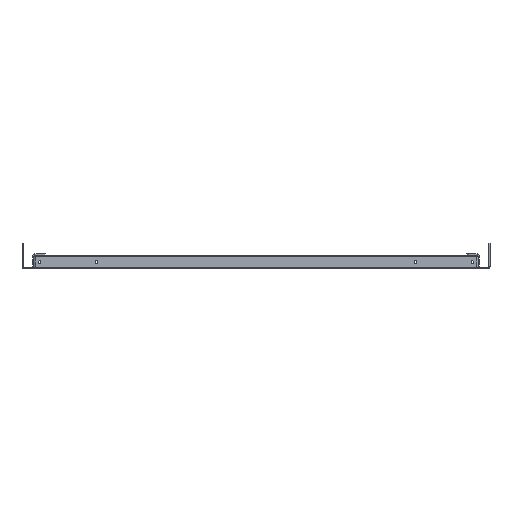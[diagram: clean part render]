
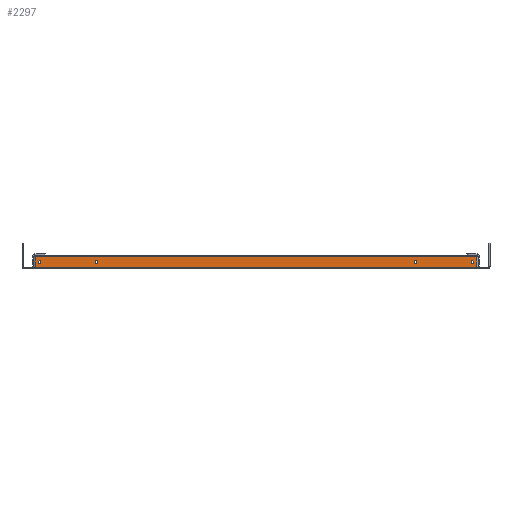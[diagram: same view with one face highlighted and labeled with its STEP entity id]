
A CAD part, front view. The second image highlights one B-rep face of the part: STEP entity #2297.
In plain terms, the highlighted planar face has unit normal (0, -1, 0).
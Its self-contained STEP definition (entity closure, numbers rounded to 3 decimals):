
#770 = FACE_OUTER_BOUND ( 'NONE', #5641, .T. ) ;
#771 = FACE_BOUND ( 'NONE', #5640, .T. ) ;
#773 = FACE_BOUND ( 'NONE', #5639, .T. ) ;
#774 = FACE_BOUND ( 'NONE', #5638, .T. ) ;
#776 = AXIS2_PLACEMENT_3D ( 'NONE', #8322, #8323, #8324 ) ;
#779 = FACE_BOUND ( 'NONE', #5637, .T. ) ;
#1204 = AXIS2_PLACEMENT_3D ( 'NONE', #7301, #7302, #7303 ) ;
#1219 = VECTOR ( 'NONE', #7259, 1000. ) ;
#1224 = VECTOR ( 'NONE', #7241, 1000. ) ;
#1226 = AXIS2_PLACEMENT_3D ( 'NONE', #7238, #7242, #7243 ) ;
#1241 = VECTOR ( 'NONE', #7190, 1000. ) ;
#1250 = AXIS2_PLACEMENT_3D ( 'NONE', #7163, #7164, #7165 ) ;
#1306 = AXIS2_PLACEMENT_3D ( 'NONE', #7026, #7027, #7028 ) ;
#1341 = AXIS2_PLACEMENT_3D ( 'NONE', #6930, #6931, #6932 ) ;
#1366 = VECTOR ( 'NONE', #6711, 1000. ) ;
#1564 = CIRCLE ( 'NONE', #12384, 1.8 ) ;
#1569 = CIRCLE ( 'NONE', #12374, 1.8 ) ;
#1634 = CIRCLE ( 'NONE', #12366, 1.8 ) ;
#1698 = CIRCLE ( 'NONE', #1226, 1.8 ) ;
#1706 = CIRCLE ( 'NONE', #1306, 1.8 ) ;
#1720 = CIRCLE ( 'NONE', #1341, 1.8 ) ;
#1772 = CIRCLE ( 'NONE', #1204, 1.8 ) ;
#1785 = CIRCLE ( 'NONE', #1250, 1.8 ) ;
#1815 = EDGE_CURVE ( 'NONE', #5230, #5231, #6709, .T. ) ;
#1893 = EDGE_CURVE ( 'NONE', #5272, #5277, #1720, .T. ) ;
#1925 = EDGE_CURVE ( 'NONE', #5262, #5267, #1706, .T. ) ;
#1958 = EDGE_CURVE ( 'NONE', #5177, #5176, #1785, .T. ) ;
#1966 = EDGE_CURVE ( 'NONE', #5231, #5234, #7188, .T. ) ;
#1983 = EDGE_CURVE ( 'NONE', #5234, #5229, #7239, .T. ) ;
#1984 = EDGE_CURVE ( 'NONE', #5140, #5141, #1698, .T. ) ;
#1989 = EDGE_CURVE ( 'NONE', #5229, #5230, #7257, .T. ) ;
#2004 = EDGE_CURVE ( 'NONE', #5141, #5140, #1772, .T. ) ;
#2297 = ADVANCED_FACE ( 'NONE', ( #779, #774, #773, #771, #770 ), #8315, .F. ) ;
#2352 = DIRECTION ( 'NONE',  ( 0., 1., 0. ) ) ;
#2353 = DIRECTION ( 'NONE',  ( -1., 0., 0. ) ) ;
#2369 = CARTESIAN_POINT ( 'NONE',  ( 316.5, -175., 10. ) ) ;
#2376 = DIRECTION ( 'NONE',  ( 0., 1., 0. ) ) ;
#2377 = DIRECTION ( 'NONE',  ( -1., 0., 0. ) ) ;
#5140 = VERTEX_POINT ( 'NONE', #8825 ) ;
#5141 = VERTEX_POINT ( 'NONE', #8826 ) ;
#5176 = VERTEX_POINT ( 'NONE', #8861 ) ;
#5177 = VERTEX_POINT ( 'NONE', #8862 ) ;
#5229 = VERTEX_POINT ( 'NONE', #8914 ) ;
#5230 = VERTEX_POINT ( 'NONE', #8915 ) ;
#5231 = VERTEX_POINT ( 'NONE', #8916 ) ;
#5234 = VERTEX_POINT ( 'NONE', #8919 ) ;
#5262 = VERTEX_POINT ( 'NONE', #8947 ) ;
#5267 = VERTEX_POINT ( 'NONE', #8952 ) ;
#5272 = VERTEX_POINT ( 'NONE', #8957 ) ;
#5277 = VERTEX_POINT ( 'NONE', #8962 ) ;
#5637 = EDGE_LOOP ( 'NONE', ( #6423, #6407 ) ) ;
#5638 = EDGE_LOOP ( 'NONE', ( #6505, #6517 ) ) ;
#5639 = EDGE_LOOP ( 'NONE', ( #6348, #6354 ) ) ;
#5640 = EDGE_LOOP ( 'NONE', ( #6448, #6390 ) ) ;
#5641 = EDGE_LOOP ( 'NONE', ( #6459, #6422, #6497, #6449 ) ) ;
#6348 = ORIENTED_EDGE ( 'NONE', *, *, #1925, .T. ) ;
#6354 = ORIENTED_EDGE ( 'NONE', *, *, #11421, .T. ) ;
#6390 = ORIENTED_EDGE ( 'NONE', *, *, #11429, .T. ) ;
#6407 = ORIENTED_EDGE ( 'NONE', *, *, #1984, .T. ) ;
#6422 = ORIENTED_EDGE ( 'NONE', *, *, #1989, .T. ) ;
#6423 = ORIENTED_EDGE ( 'NONE', *, *, #2004, .T. ) ;
#6448 = ORIENTED_EDGE ( 'NONE', *, *, #1958, .T. ) ;
#6449 = ORIENTED_EDGE ( 'NONE', *, *, #1966, .T. ) ;
#6459 = ORIENTED_EDGE ( 'NONE', *, *, #1983, .T. ) ;
#6497 = ORIENTED_EDGE ( 'NONE', *, *, #1815, .T. ) ;
#6505 = ORIENTED_EDGE ( 'NONE', *, *, #1893, .T. ) ;
#6517 = ORIENTED_EDGE ( 'NONE', *, *, #11413, .T. ) ;
#6709 = LINE ( 'NONE', #6710, #1366 ) ;
#6710 = CARTESIAN_POINT ( 'NONE',  ( -323., -175., 20. ) ) ;
#6711 = DIRECTION ( 'NONE',  ( 0., 0., -1. ) ) ;
#6930 = CARTESIAN_POINT ( 'NONE',  ( -316.5, -175., 10. ) ) ;
#6931 = DIRECTION ( 'NONE',  ( 0., 1., 0. ) ) ;
#6932 = DIRECTION ( 'NONE',  ( -1., 0., 0. ) ) ;
#7026 = CARTESIAN_POINT ( 'NONE',  ( 233.5, -175., 10. ) ) ;
#7027 = DIRECTION ( 'NONE',  ( 0., 1., 0. ) ) ;
#7028 = DIRECTION ( 'NONE',  ( -1., 0., 0. ) ) ;
#7163 = CARTESIAN_POINT ( 'NONE',  ( 316.5, -175., 10. ) ) ;
#7164 = DIRECTION ( 'NONE',  ( 0., 1., 0. ) ) ;
#7165 = DIRECTION ( 'NONE',  ( -1., 0., 0. ) ) ;
#7188 = LINE ( 'NONE', #7189, #1241 ) ;
#7189 = CARTESIAN_POINT ( 'NONE',  ( 325., -175., 2. ) ) ;
#7190 = DIRECTION ( 'NONE',  ( 1., 0., 0. ) ) ;
#7238 = CARTESIAN_POINT ( 'NONE',  ( -233.5, -175., 10. ) ) ;
#7239 = LINE ( 'NONE', #7240, #1224 ) ;
#7240 = CARTESIAN_POINT ( 'NONE',  ( 323., -175., 20. ) ) ;
#7241 = DIRECTION ( 'NONE',  ( 0., 0., 1. ) ) ;
#7242 = DIRECTION ( 'NONE',  ( 0., 1., 0. ) ) ;
#7243 = DIRECTION ( 'NONE',  ( -1., 0., 0. ) ) ;
#7257 = LINE ( 'NONE', #7258, #1219 ) ;
#7258 = CARTESIAN_POINT ( 'NONE',  ( -325., -175., 18. ) ) ;
#7259 = DIRECTION ( 'NONE',  ( -1., 0., 0. ) ) ;
#7301 = CARTESIAN_POINT ( 'NONE',  ( -233.5, -175., 10. ) ) ;
#7302 = DIRECTION ( 'NONE',  ( 0., 1., 0. ) ) ;
#7303 = DIRECTION ( 'NONE',  ( -1., 0., 0. ) ) ;
#8315 = PLANE ( 'NONE',  #776 ) ;
#8322 = CARTESIAN_POINT ( 'NONE',  ( 325., -175., 20. ) ) ;
#8323 = DIRECTION ( 'NONE',  ( 0., 1., 0. ) ) ;
#8324 = DIRECTION ( 'NONE',  ( -1., 0., 0. ) ) ;
#8825 = CARTESIAN_POINT ( 'NONE',  ( -231.7, -175., 10. ) ) ;
#8826 = CARTESIAN_POINT ( 'NONE',  ( -235.3, -175., 10. ) ) ;
#8861 = CARTESIAN_POINT ( 'NONE',  ( 318.3, -175., 10. ) ) ;
#8862 = CARTESIAN_POINT ( 'NONE',  ( 314.7, -175., 10. ) ) ;
#8914 = CARTESIAN_POINT ( 'NONE',  ( 323., -175., 18. ) ) ;
#8915 = CARTESIAN_POINT ( 'NONE',  ( -323., -175., 18. ) ) ;
#8916 = CARTESIAN_POINT ( 'NONE',  ( -323., -175., 2. ) ) ;
#8919 = CARTESIAN_POINT ( 'NONE',  ( 323., -175., 2. ) ) ;
#8947 = CARTESIAN_POINT ( 'NONE',  ( 231.7, -175., 10. ) ) ;
#8952 = CARTESIAN_POINT ( 'NONE',  ( 235.3, -175., 10. ) ) ;
#8957 = CARTESIAN_POINT ( 'NONE',  ( -318.3, -175., 10. ) ) ;
#8962 = CARTESIAN_POINT ( 'NONE',  ( -314.7, -175., 10. ) ) ;
#10162 = CARTESIAN_POINT ( 'NONE',  ( -316.5, -175., 10. ) ) ;
#10163 = DIRECTION ( 'NONE',  ( 0., 1., 0. ) ) ;
#10164 = DIRECTION ( 'NONE',  ( -1., 0., 0. ) ) ;
#10180 = CARTESIAN_POINT ( 'NONE',  ( 233.5, -175., 10. ) ) ;
#11413 = EDGE_CURVE ( 'NONE', #5277, #5272, #1564, .T. ) ;
#11421 = EDGE_CURVE ( 'NONE', #5267, #5262, #1569, .T. ) ;
#11429 = EDGE_CURVE ( 'NONE', #5176, #5177, #1634, .T. ) ;
#12366 = AXIS2_PLACEMENT_3D ( 'NONE', #2369, #2376, #2377 ) ;
#12374 = AXIS2_PLACEMENT_3D ( 'NONE', #10180, #2352, #2353 ) ;
#12384 = AXIS2_PLACEMENT_3D ( 'NONE', #10162, #10163, #10164 ) ;
